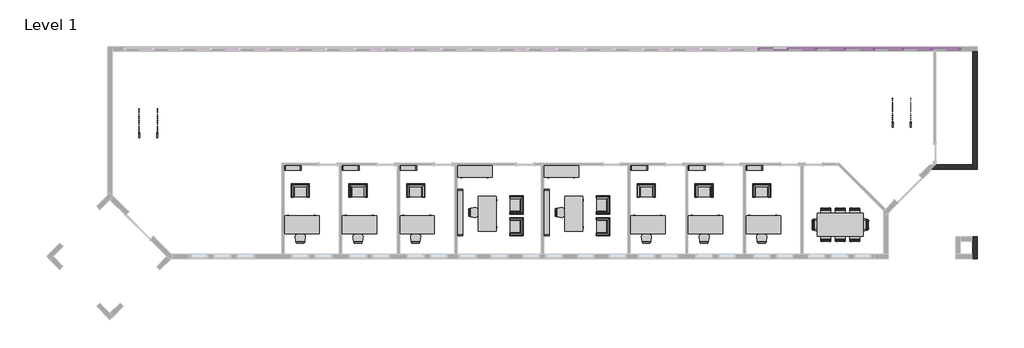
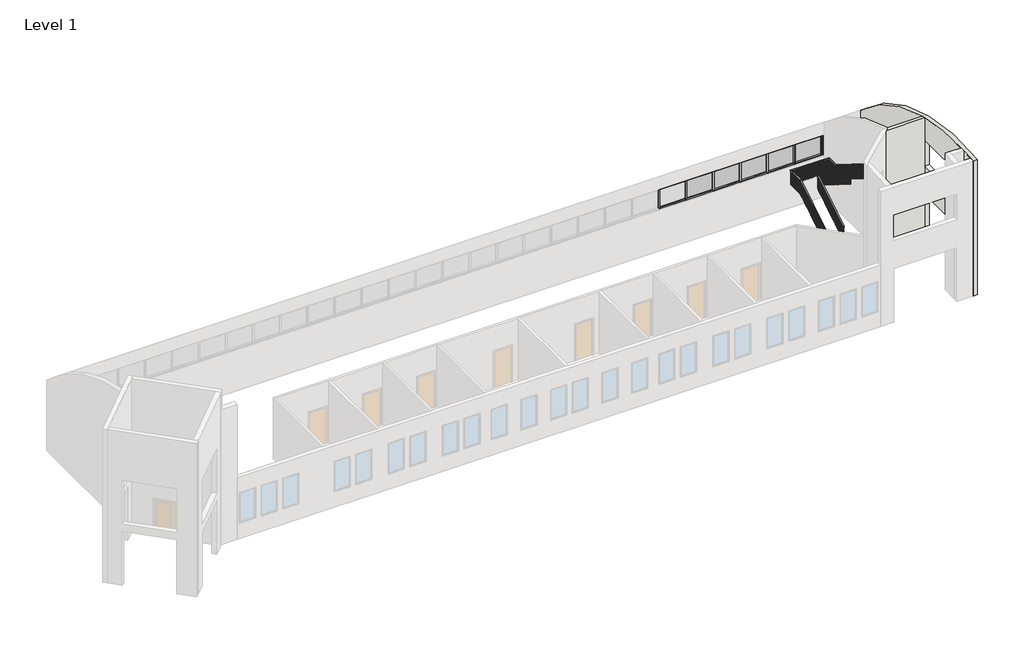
# One storey, part 4 of 4: 45 furniture elements, 22 members, 6 plates, 4 railings, 2 walls.
"""IFC4 building model written with IfcOpenShell, lengths in millimetres."""

from ifc_helpers import new_model, si_unit, frame, origin, place, context, project, spatial, circle_curve, ellipse_curve, transform, mapped, element, save
from ifc_brep_helpers import plane_surface, cylinder_surface, advanced_brep
from components import chair_corbu_chair_corbu_2764bdef, chair_desk_chair_desk_ccc35c8f, chair_task_chair_task_b7f3823b, chair_task_arms_chair_task_arms_3b363349, furniture_7b927048, furniture_2fc54265, furniture_417d203a, furniture_b1da5ad0, furniture_bf544a6a, member_26d67f61, member_4a1dde21, member_ea26f28a, member_39b5eb81, system_panel_glazed_acb3b149, system_panel_glazed_38e8219a, handrail_rectangular_c8b49949, handrail_rectangular_ed192b8c, handrail_rectangular_dc8e77f5, handrail_rectangular_92576db8

model = new_model("IFC4")

# Units and contexts
model_context = context("Model", 3, world=origin())
ifc_project = project(units=[si_unit("LENGTHUNIT", "METRE", prefix="MILLI")], contexts=[model_context])

# Site, building, storey
site = spatial("IfcSite", under=ifc_project)
building = spatial("IfcBuilding", under=site)
storey = spatial("IfcBuildingStorey", under=building, Name="Level 1", Elevation=0.0)

# Furniture
placement = place(None, origin())
chair_corbu_chair_corbu_shape = chair_corbu_chair_corbu_2764bdef(model_context)
element("IfcFurniture", 1, ObjectType="Chair-Corbu : Chair-Corbu", at=placement, inside=storey, context=model_context, shape_type="MappedRepresentation", body=[
    mapped(chair_corbu_chair_corbu_shape, transform((-2632.1841611, 561.520538, 0.0), x_axis=(1.0, 0.0, 0.0), y_axis=(0.0, 1.0, 0.0), z_axis=(0.0, 0.0, 1.0))),
])
element("IfcFurniture", 2, ObjectType="Chair-Corbu : Chair-Corbu", at=placement, inside=storey, context=model_context, shape_type="MappedRepresentation", body=[
    mapped(chair_corbu_chair_corbu_shape, transform((415.8158389, 561.520538, 0.0), x_axis=(1.0, 0.0, 0.0), y_axis=(0.0, 1.0, 0.0), z_axis=(0.0, 0.0, 1.0))),
])
element("IfcFurniture", 3, ObjectType="Chair-Corbu : Chair-Corbu", at=placement, inside=storey, context=model_context, shape_type="MappedRepresentation", body=[
    mapped(chair_corbu_chair_corbu_shape, transform((15655.8158389, 561.520538, 0.0), x_axis=(1.0, 0.0, 0.0), y_axis=(0.0, 1.0, 0.0), z_axis=(0.0, 0.0, 1.0))),
])
element("IfcFurniture", 4, ObjectType="Chair-Corbu : Chair-Corbu", at=placement, inside=storey, context=model_context, shape_type="MappedRepresentation", body=[
    mapped(chair_corbu_chair_corbu_shape, transform((18703.8158389, 561.520538, 0.0), x_axis=(1.0, 0.0, 0.0), y_axis=(0.0, 1.0, 0.0), z_axis=(0.0, 0.0, 1.0))),
])
element("IfcFurniture", 5, ObjectType="Chair-Corbu : Chair-Corbu", at=placement, inside=storey, context=model_context, shape_type="MappedRepresentation", body=[
    mapped(chair_corbu_chair_corbu_shape, transform((21751.8158389, 561.520538, 0.0), x_axis=(1.0, 0.0, 0.0), y_axis=(0.0, 1.0, 0.0), z_axis=(0.0, 0.0, 1.0))),
])
element("IfcFurniture", 6, ObjectType="Chair-Corbu : Chair-Corbu", at=placement, inside=storey, context=model_context, shape_type="MappedRepresentation", body=[
    mapped(chair_corbu_chair_corbu_shape, transform((8904.4125603, 839.6713577, 0.0), x_axis=(0.0, -1.0, 0.0), y_axis=(1.0, 0.0, 0.0), z_axis=(0.0, 0.0, 1.0))),
])
element("IfcFurniture", 7, ObjectType="Chair-Corbu : Chair-Corbu", at=placement, inside=storey, context=model_context, shape_type="MappedRepresentation", body=[
    mapped(chair_corbu_chair_corbu_shape, transform((8904.4125603, -303.3286423, 0.0), x_axis=(0.0, -1.0, 0.0), y_axis=(1.0, 0.0, 0.0), z_axis=(0.0, 0.0, 1.0))),
])
element("IfcFurniture", 8, ObjectType="Chair-Corbu : Chair-Corbu", at=placement, inside=storey, context=model_context, shape_type="MappedRepresentation", body=[
    mapped(chair_corbu_chair_corbu_shape, transform((3463.8158389, 561.520538, 0.0), x_axis=(1.0, 0.0, 0.0), y_axis=(0.0, 1.0, 0.0), z_axis=(0.0, 0.0, 1.0))),
])
element("IfcFurniture", 9, ObjectType="Chair-Corbu : Chair-Corbu", at=placement, inside=storey, context=model_context, shape_type="MappedRepresentation", body=[
    mapped(chair_corbu_chair_corbu_shape, transform((13476.4125603, 839.6713577, 0.0), x_axis=(0.0, -1.0, 0.0), y_axis=(1.0, 0.0, 0.0), z_axis=(0.0, 0.0, 1.0))),
])
element("IfcFurniture", 10, ObjectType="Chair-Corbu : Chair-Corbu", at=placement, inside=storey, context=model_context, shape_type="MappedRepresentation", body=[
    mapped(chair_corbu_chair_corbu_shape, transform((13476.4125603, -303.3286423, 0.0), x_axis=(0.0, -1.0, 0.0), y_axis=(1.0, 0.0, 0.0), z_axis=(0.0, 0.0, 1.0))),
])
chair_desk_chair_desk_shape = chair_desk_chair_desk_ccc35c8f(model_context)
element("IfcFurniture", 11, ObjectType="Chair-Desk : Chair-Desk", at=placement, inside=storey, context=model_context, shape_type="MappedRepresentation", body=[
    mapped(chair_desk_chair_desk_shape, transform((-2058.8103906, -1689.5024128, 0.0), x_axis=(1.0, 0.0, 0.0), y_axis=(0.0, 1.0, 0.0), z_axis=(0.0, 0.0, 1.0))),
])
element("IfcFurniture", 12, ObjectType="Chair-Desk : Chair-Desk", at=placement, inside=storey, context=model_context, shape_type="MappedRepresentation", body=[
    mapped(chair_desk_chair_desk_shape, transform((989.1896094, -1689.5024128, 0.0), x_axis=(1.0, 0.0, 0.0), y_axis=(0.0, 1.0, 0.0), z_axis=(0.0, 0.0, 1.0))),
])
element("IfcFurniture", 13, ObjectType="Chair-Desk : Chair-Desk", at=placement, inside=storey, context=model_context, shape_type="MappedRepresentation", body=[
    mapped(chair_desk_chair_desk_shape, transform((16229.1896094, -1689.5024128, 0.0), x_axis=(1.0, 0.0, 0.0), y_axis=(0.0, 1.0, 0.0), z_axis=(0.0, 0.0, 1.0))),
])
element("IfcFurniture", 14, ObjectType="Chair-Desk : Chair-Desk", at=placement, inside=storey, context=model_context, shape_type="MappedRepresentation", body=[
    mapped(chair_desk_chair_desk_shape, transform((19277.1896094, -1689.5024128, 0.0), x_axis=(1.0, 0.0, 0.0), y_axis=(0.0, 1.0, 0.0), z_axis=(0.0, 0.0, 1.0))),
])
element("IfcFurniture", 15, ObjectType="Chair-Desk : Chair-Desk", at=placement, inside=storey, context=model_context, shape_type="MappedRepresentation", body=[
    mapped(chair_desk_chair_desk_shape, transform((22325.1896094, -1689.5024128, 0.0), x_axis=(1.0, 0.0, 0.0), y_axis=(0.0, 1.0, 0.0), z_axis=(0.0, 0.0, 1.0))),
])
element("IfcFurniture", 16, ObjectType="Chair-Desk : Chair-Desk", at=placement, inside=storey, context=model_context, shape_type="MappedRepresentation", body=[
    mapped(chair_desk_chair_desk_shape, transform((6911.7586481, -128.9899128, 0.0), x_axis=(0.0, -1.0, 0.0), y_axis=(1.0, 0.0, 0.0), z_axis=(0.0, 0.0, 1.0))),
])
element("IfcFurniture", 17, ObjectType="Chair-Desk : Chair-Desk", at=placement, inside=storey, context=model_context, shape_type="MappedRepresentation", body=[
    mapped(chair_desk_chair_desk_shape, transform((4037.1896094, -1689.5024128, 0.0), x_axis=(1.0, 0.0, 0.0), y_axis=(0.0, 1.0, 0.0), z_axis=(0.0, 0.0, 1.0))),
])
element("IfcFurniture", 18, ObjectType="Chair-Desk : Chair-Desk", at=placement, inside=storey, context=model_context, shape_type="MappedRepresentation", body=[
    mapped(chair_desk_chair_desk_shape, transform((11483.7586481, -128.9899128, 0.0), x_axis=(0.0, -1.0, 0.0), y_axis=(1.0, 0.0, 0.0), z_axis=(0.0, 0.0, 1.0))),
])
chair_task_chair_task_shape = chair_task_chair_task_b7f3823b(model_context)
element("IfcFurniture", 19, ObjectType="Chair-Task : Chair-Task", at=placement, inside=storey, context=model_context, shape_type="MappedRepresentation", body=[
    mapped(chair_task_chair_task_shape, transform((25572.0033185, -1403.6483145, 0.0), x_axis=(1.0, 0.0, 0.0), y_axis=(0.0, 1.0, 0.0), z_axis=(0.0, 0.0, 1.0))),
])
element("IfcFurniture", 20, ObjectType="Chair-Task : Chair-Task", at=placement, inside=storey, context=model_context, shape_type="MappedRepresentation", body=[
    mapped(chair_task_chair_task_shape, transform((25853.9849578, -146.5565112, 0.0), x_axis=(-1.0, 0.0, 0.0), y_axis=(0.0, -1.0, 0.0), z_axis=(0.0, 0.0, 1.0))),
])
element("IfcFurniture", 21, ObjectType="Chair-Task : Chair-Task", at=placement, inside=storey, context=model_context, shape_type="MappedRepresentation", body=[
    mapped(chair_task_chair_task_shape, transform((27096.0033185, -1403.6483145, 0.0), x_axis=(1.0, 0.0, 0.0), y_axis=(0.0, 1.0, 0.0), z_axis=(0.0, 0.0, 1.0))),
])
element("IfcFurniture", 22, ObjectType="Chair-Task : Chair-Task", at=placement, inside=storey, context=model_context, shape_type="MappedRepresentation", body=[
    mapped(chair_task_chair_task_shape, transform((26334.0033185, -1403.6483145, 0.0), x_axis=(1.0, 0.0, 0.0), y_axis=(0.0, 1.0, 0.0), z_axis=(0.0, 0.0, 1.0))),
])
element("IfcFurniture", 23, ObjectType="Chair-Task : Chair-Task", at=placement, inside=storey, context=model_context, shape_type="MappedRepresentation", body=[
    mapped(chair_task_chair_task_shape, transform((27377.9849578, -146.5565112, 0.0), x_axis=(-1.0, 0.0, 0.0), y_axis=(0.0, -1.0, 0.0), z_axis=(0.0, 0.0, 1.0))),
])
element("IfcFurniture", 24, ObjectType="Chair-Task : Chair-Task", at=placement, inside=storey, context=model_context, shape_type="MappedRepresentation", body=[
    mapped(chair_task_chair_task_shape, transform((26615.9849578, -146.5565112, 0.0), x_axis=(-1.0, 0.0, 0.0), y_axis=(0.0, -1.0, 0.0), z_axis=(0.0, 0.0, 1.0))),
])
chair_task_arms_chair_task_arms_shape = chair_task_arms_chair_task_arms_3b363349(model_context)
element("IfcFurniture", 25, ObjectType="Chair-Task Arms : Chair-Task Arms", at=placement, inside=storey, context=model_context, shape_type="MappedRepresentation", body=[
    mapped(chair_task_arms_chair_task_arms_shape, transform((25236.8482365, -634.1115932, 0.0), x_axis=(0.0, -1.0, 0.0), y_axis=(1.0, 0.0, 0.0), z_axis=(0.0, 0.0, 1.0))),
])
element("IfcFurniture", 26, ObjectType="Chair-Task Arms : Chair-Task Arms", at=placement, inside=storey, context=model_context, shape_type="MappedRepresentation", body=[
    mapped(chair_task_arms_chair_task_arms_shape, transform((27713.1400398, -916.0932325, 0.0), x_axis=(0.0, 1.0000000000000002, 0.0), y_axis=(-1.0000000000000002, 0.0, 0.0), z_axis=(0.0, 0.0, 1.0))),
])
furniture_shape = furniture_7b927048(model_context)
element("IfcFurniture", 27, ObjectType="Credenza : 72\" x 24\"", at=placement, inside=storey, context=model_context, shape_type="MappedRepresentation", body=[
    mapped(furniture_shape, transform((7087.5578471, 2054.0047593, 0.0), x_axis=(1.0, 0.0, 0.0), y_axis=(0.0, 1.0, 0.0), z_axis=(0.0, 0.0, 1.0))),
])
element("IfcFurniture", 28, ObjectType="Credenza : 72\" x 24\"", at=placement, inside=storey, context=model_context, shape_type="MappedRepresentation", body=[
    mapped(furniture_shape, transform((11659.5578471, 2054.0047593, 0.0), x_axis=(1.0, 0.0, 0.0), y_axis=(0.0, 1.0, 0.0), z_axis=(0.0, 0.0, 1.0))),
])
furniture_2_shape = furniture_2fc54265(model_context)
element("IfcFurniture", 29, ObjectType="Desk : 72\" x 36\"", at=placement, inside=storey, context=model_context, shape_type="MappedRepresentation", body=[
    mapped(furniture_2_shape, transform((-2911.2978906, -1232.3024128, 0.0), x_axis=(1.0, 0.0, 0.0), y_axis=(0.0, 1.0, 0.0), z_axis=(0.0, 0.0, 1.0))),
])
element("IfcFurniture", 30, ObjectType="Desk : 72\" x 36\"", at=placement, inside=storey, context=model_context, shape_type="MappedRepresentation", body=[
    mapped(furniture_2_shape, transform((136.7021094, -1232.3024128, 0.0), x_axis=(1.0, 0.0, 0.0), y_axis=(0.0, 1.0, 0.0), z_axis=(0.0, 0.0, 1.0))),
])
element("IfcFurniture", 31, ObjectType="Desk : 72\" x 36\"", at=placement, inside=storey, context=model_context, shape_type="MappedRepresentation", body=[
    mapped(furniture_2_shape, transform((15376.7021094, -1232.3024128, 0.0), x_axis=(1.0, 0.0, 0.0), y_axis=(0.0, 1.0, 0.0), z_axis=(0.0, 0.0, 1.0))),
])
element("IfcFurniture", 32, ObjectType="Desk : 72\" x 36\"", at=placement, inside=storey, context=model_context, shape_type="MappedRepresentation", body=[
    mapped(furniture_2_shape, transform((18424.7021094, -1232.3024128, 0.0), x_axis=(1.0, 0.0, 0.0), y_axis=(0.0, 1.0, 0.0), z_axis=(0.0, 0.0, 1.0))),
])
element("IfcFurniture", 33, ObjectType="Desk : 72\" x 36\"", at=placement, inside=storey, context=model_context, shape_type="MappedRepresentation", body=[
    mapped(furniture_2_shape, transform((21472.7021094, -1232.3024128, 0.0), x_axis=(1.0, 0.0, 0.0), y_axis=(0.0, 1.0, 0.0), z_axis=(0.0, 0.0, 1.0))),
])
element("IfcFurniture", 34, ObjectType="Desk : 72\" x 36\"", at=placement, inside=storey, context=model_context, shape_type="MappedRepresentation", body=[
    mapped(furniture_2_shape, transform((7368.9586481, 723.4975872, 0.0), x_axis=(0.0, -1.0, 0.0), y_axis=(1.0, 0.0, 0.0), z_axis=(0.0, 0.0, 1.0))),
])
element("IfcFurniture", 35, ObjectType="Desk : 72\" x 36\"", at=placement, inside=storey, context=model_context, shape_type="MappedRepresentation", body=[
    mapped(furniture_2_shape, transform((3184.7021094, -1232.3024128, 0.0), x_axis=(1.0, 0.0, 0.0), y_axis=(0.0, 1.0, 0.0), z_axis=(0.0, 0.0, 1.0))),
])
element("IfcFurniture", 36, ObjectType="Desk : 72\" x 36\"", at=placement, inside=storey, context=model_context, shape_type="MappedRepresentation", body=[
    mapped(furniture_2_shape, transform((11940.9586481, 723.4975872, 0.0), x_axis=(0.0, -1.0, 0.0), y_axis=(1.0, 0.0, 0.0), z_axis=(0.0, 0.0, 1.0))),
])
furniture_3_shape = furniture_417d203a(model_context)
element("IfcFurniture", 37, ObjectType="Shelving : 36\" x 10\" x 72\"", at=placement, inside=storey, context=model_context, shape_type="MappedRepresentation", body=[
    mapped(furniture_3_shape, transform((-2454.0978906, 2541.1850872, 0.0), x_axis=(1.0, 0.0, 0.0), y_axis=(0.0, 1.0, 0.0), z_axis=(0.0, 0.0, 1.0))),
])
element("IfcFurniture", 38, ObjectType="Shelving : 36\" x 10\" x 72\"", at=placement, inside=storey, context=model_context, shape_type="MappedRepresentation", body=[
    mapped(furniture_3_shape, transform((593.9021094, 2541.1850872, 0.0), x_axis=(1.0, 0.0, 0.0), y_axis=(0.0, 1.0, 0.0), z_axis=(0.0, 0.0, 1.0))),
])
element("IfcFurniture", 39, ObjectType="Shelving : 36\" x 10\" x 72\"", at=placement, inside=storey, context=model_context, shape_type="MappedRepresentation", body=[
    mapped(furniture_3_shape, transform((15833.9021094, 2541.1850872, 0.0), x_axis=(1.0, 0.0, 0.0), y_axis=(0.0, 1.0, 0.0), z_axis=(0.0, 0.0, 1.0))),
])
element("IfcFurniture", 40, ObjectType="Shelving : 36\" x 10\" x 72\"", at=placement, inside=storey, context=model_context, shape_type="MappedRepresentation", body=[
    mapped(furniture_3_shape, transform((18881.9021094, 2541.1850872, 0.0), x_axis=(1.0, 0.0, 0.0), y_axis=(0.0, 1.0, 0.0), z_axis=(0.0, 0.0, 1.0))),
])
element("IfcFurniture", 41, ObjectType="Shelving : 36\" x 10\" x 72\"", at=placement, inside=storey, context=model_context, shape_type="MappedRepresentation", body=[
    mapped(furniture_3_shape, transform((21929.9021094, 2541.1850872, 0.0), x_axis=(1.0, 0.0, 0.0), y_axis=(0.0, 1.0, 0.0), z_axis=(0.0, 0.0, 1.0))),
])
element("IfcFurniture", 42, ObjectType="Shelving : 36\" x 10\" x 72\"", at=placement, inside=storey, context=model_context, shape_type="MappedRepresentation", body=[
    mapped(furniture_3_shape, transform((3641.9021094, 2541.1850872, 0.0), x_axis=(1.0, 0.0, 0.0), y_axis=(0.0, 1.0, 0.0), z_axis=(0.0, 0.0, 1.0))),
])
furniture_4_shape = furniture_b1da5ad0(model_context)
element("IfcFurniture", 43, ObjectType="Shelving : 96\" x 12\" x 84\"", at=placement, inside=storey, context=model_context, shape_type="MappedRepresentation", body=[
    mapped(furniture_4_shape, transform((6080.3021094, -128.9899128, 0.0), x_axis=(0.0, 1.0, 0.0), y_axis=(-1.0, 0.0, 0.0), z_axis=(0.0, 0.0, 1.0))),
])
element("IfcFurniture", 44, ObjectType="Shelving : 96\" x 12\" x 84\"", at=placement, inside=storey, context=model_context, shape_type="MappedRepresentation", body=[
    mapped(furniture_4_shape, transform((10652.3021094, -128.9899128, 0.0), x_axis=(0.0, 1.0, 0.0), y_axis=(-1.0, 0.0, 0.0), z_axis=(0.0, 0.0, 1.0))),
])
furniture_5_shape = furniture_bf544a6a(model_context)
element("IfcFurniture", 45, ObjectType="Table-Conference with Chairs : 48\" x 96\"", at=placement, inside=storey, context=model_context, shape_type="MappedRepresentation", body=[
    mapped(furniture_5_shape, transform((26474.9941381, -775.1024128, 0.0), x_axis=(1.0, 0.0, 0.0), y_axis=(0.0, 1.0, 0.0), z_axis=(0.0, 0.0, 1.0))),
])

# Members
member_shape = member_26d67f61(model_context)
element("IfcMember", 46, ObjectType="Rectangular Mullion : 2.5\" x 5\" rectangular", at=placement, inside=storey, context=model_context, shape_type="MappedRepresentation", body=[
    mapped(member_shape, transform((32777.2896094, 8521.2975872, 3657.6), x_axis=(0.0, 0.0, 1.0), y_axis=(0.0, -1.0, 0.0), z_axis=(1.0, 0.0, 0.0))),
])
member_2_shape = member_4a1dde21(model_context)
element("IfcMember", 47, ObjectType="Rectangular Mullion : 2.5\" x 5\" rectangular", at=placement, inside=storey, context=model_context, shape_type="MappedRepresentation", body=[
    mapped(member_2_shape, transform((23665.0396094, 8521.2975872, 3657.6), x_axis=(0.0, 0.0, 1.0), y_axis=(0.0, -1.0, 0.0), z_axis=(1.0, 0.0, 0.0))),
])
element("IfcMember", 48, ObjectType="Rectangular Mullion : 2.5\" x 5\" rectangular", at=placement, inside=storey, context=model_context, shape_type="MappedRepresentation", body=[
    mapped(member_2_shape, transform((25189.0396094, 8521.2975872, 3657.6), x_axis=(0.0, 0.0, 1.0), y_axis=(0.0, -1.0, 0.0), z_axis=(1.0, 0.0, 0.0))),
])
element("IfcMember", 49, ObjectType="Rectangular Mullion : 2.5\" x 5\" rectangular", at=placement, inside=storey, context=model_context, shape_type="MappedRepresentation", body=[
    mapped(member_2_shape, transform((26713.0396094, 8521.2975872, 3657.6), x_axis=(0.0, 0.0, 1.0), y_axis=(0.0, -1.0, 0.0), z_axis=(1.0, 0.0, 0.0))),
])
element("IfcMember", 50, ObjectType="Rectangular Mullion : 2.5\" x 5\" rectangular", at=placement, inside=storey, context=model_context, shape_type="MappedRepresentation", body=[
    mapped(member_2_shape, transform((28237.0396094, 8521.2975872, 3657.6), x_axis=(0.0, 0.0, 1.0), y_axis=(0.0, -1.0, 0.0), z_axis=(1.0, 0.0, 0.0))),
])
element("IfcMember", 51, ObjectType="Rectangular Mullion : 2.5\" x 5\" rectangular", at=placement, inside=storey, context=model_context, shape_type="MappedRepresentation", body=[
    mapped(member_2_shape, transform((29761.0396094, 8521.2975872, 3657.6), x_axis=(0.0, 0.0, 1.0), y_axis=(0.0, -1.0, 0.0), z_axis=(1.0, 0.0, 0.0))),
])
element("IfcMember", 52, ObjectType="Rectangular Mullion : 2.5\" x 5\" rectangular", at=placement, inside=storey, context=model_context, shape_type="MappedRepresentation", body=[
    mapped(member_2_shape, transform((31285.0396094, 8521.2975872, 3657.6), x_axis=(0.0, 0.0, 1.0), y_axis=(0.0, -1.0, 0.0), z_axis=(1.0, 0.0, 0.0))),
])
element("IfcMember", 53, ObjectType="Rectangular Mullion : 2.5\" x 5\" rectangular", at=placement, inside=storey, context=model_context, shape_type="MappedRepresentation", body=[
    mapped(member_shape, transform((31348.5396094, 8521.2975872, 2451.0234381), x_axis=(0.0, 0.0, -1.0), y_axis=(0.0, -1.0, 0.0), z_axis=(-1.0, 0.0, 0.0))),
])
element("IfcMember", 54, ObjectType="Rectangular Mullion : 2.5\" x 5\" rectangular", at=placement, inside=storey, context=model_context, shape_type="MappedRepresentation", body=[
    mapped(member_2_shape, transform((22204.5396094, 8521.2975872, 2451.0234381), x_axis=(0.0, 0.0, -1.0), y_axis=(0.0, -1.0, 0.0), z_axis=(-1.0, 0.0, 0.0))),
])
element("IfcMember", 55, ObjectType="Rectangular Mullion : 2.5\" x 5\" rectangular", at=placement, inside=storey, context=model_context, shape_type="MappedRepresentation", body=[
    mapped(member_2_shape, transform((23728.5396094, 8521.2975872, 2451.0234381), x_axis=(0.0, 0.0, -1.0), y_axis=(0.0, -1.0, 0.0), z_axis=(-1.0, 0.0, 0.0))),
])
element("IfcMember", 56, ObjectType="Rectangular Mullion : 2.5\" x 5\" rectangular", at=placement, inside=storey, context=model_context, shape_type="MappedRepresentation", body=[
    mapped(member_2_shape, transform((25252.5396094, 8521.2975872, 2451.0234381), x_axis=(0.0, 0.0, -1.0), y_axis=(0.0, -1.0, 0.0), z_axis=(-1.0, 0.0, 0.0))),
])
element("IfcMember", 57, ObjectType="Rectangular Mullion : 2.5\" x 5\" rectangular", at=placement, inside=storey, context=model_context, shape_type="MappedRepresentation", body=[
    mapped(member_2_shape, transform((26776.5396094, 8521.2975872, 2451.0234381), x_axis=(0.0, 0.0, -1.0), y_axis=(0.0, -1.0, 0.0), z_axis=(-1.0, 0.0, 0.0))),
])
element("IfcMember", 58, ObjectType="Rectangular Mullion : 2.5\" x 5\" rectangular", at=placement, inside=storey, context=model_context, shape_type="MappedRepresentation", body=[
    mapped(member_2_shape, transform((28300.5396094, 8521.2975872, 2451.0234381), x_axis=(0.0, 0.0, -1.0), y_axis=(0.0, -1.0, 0.0), z_axis=(-1.0, 0.0, 0.0))),
])
element("IfcMember", 59, ObjectType="Rectangular Mullion : 2.5\" x 5\" rectangular", at=placement, inside=storey, context=model_context, shape_type="MappedRepresentation", body=[
    mapped(member_2_shape, transform((29824.5396094, 8521.2975872, 2451.0234381), x_axis=(0.0, 0.0, -1.0), y_axis=(0.0, -1.0, 0.0), z_axis=(-1.0, 0.0, 0.0))),
])
member_3_shape = member_ea26f28a(model_context)
element("IfcMember", 60, ObjectType="Rectangular Mullion : 2.5\" x 5\" rectangular", at=placement, inside=storey, context=model_context, shape_type="MappedRepresentation", body=[
    mapped(member_3_shape, transform((22172.7896094, 8521.2975872, 2451.0234381), x_axis=(1.0, 0.0, 0.0), y_axis=(0.0, -1.0, 0.0), z_axis=(0.0, 0.0, -1.0))),
])
element("IfcMember", 61, ObjectType="Rectangular Mullion : 2.5\" x 5\" rectangular", at=placement, inside=storey, context=model_context, shape_type="MappedRepresentation", body=[
    mapped(member_3_shape, transform((23696.7896094, 8521.2975872, 2451.0234381), x_axis=(1.0, 0.0, 0.0), y_axis=(0.0, -1.0, 0.0), z_axis=(0.0, 0.0, -1.0))),
])
element("IfcMember", 62, ObjectType="Rectangular Mullion : 2.5\" x 5\" rectangular", at=placement, inside=storey, context=model_context, shape_type="MappedRepresentation", body=[
    mapped(member_3_shape, transform((25220.7896094, 8521.2975872, 2451.0234381), x_axis=(1.0, 0.0, 0.0), y_axis=(0.0, -1.0, 0.0), z_axis=(0.0, 0.0, -1.0))),
])
element("IfcMember", 63, ObjectType="Rectangular Mullion : 2.5\" x 5\" rectangular", at=placement, inside=storey, context=model_context, shape_type="MappedRepresentation", body=[
    mapped(member_3_shape, transform((26744.7896094, 8521.2975872, 2451.0234381), x_axis=(1.0, 0.0, 0.0), y_axis=(0.0, -1.0, 0.0), z_axis=(0.0, 0.0, -1.0))),
])
element("IfcMember", 64, ObjectType="Rectangular Mullion : 2.5\" x 5\" rectangular", at=placement, inside=storey, context=model_context, shape_type="MappedRepresentation", body=[
    mapped(member_3_shape, transform((28268.7896094, 8521.2975872, 2451.0234381), x_axis=(1.0, 0.0, 0.0), y_axis=(0.0, -1.0, 0.0), z_axis=(0.0, 0.0, -1.0))),
])
element("IfcMember", 65, ObjectType="Rectangular Mullion : 2.5\" x 5\" rectangular", at=placement, inside=storey, context=model_context, shape_type="MappedRepresentation", body=[
    mapped(member_3_shape, transform((29792.7896094, 8521.2975872, 2451.0234381), x_axis=(1.0, 0.0, 0.0), y_axis=(0.0, -1.0, 0.0), z_axis=(0.0, 0.0, -1.0))),
])
element("IfcMember", 66, ObjectType="Rectangular Mullion : 2.5\" x 5\" rectangular", at=placement, inside=storey, context=model_context, shape_type="MappedRepresentation", body=[
    mapped(member_3_shape, transform((31316.7896094, 8521.2975872, 2451.0234381), x_axis=(1.0, 0.0, 0.0), y_axis=(0.0, -1.0, 0.0), z_axis=(0.0, 0.0, -1.0))),
])
member_4_shape = member_39b5eb81(model_context)
element("IfcMember", 67, ObjectType="Rectangular Mullion : 2.5\" x 5\" rectangular", at=placement, inside=storey, context=model_context, shape_type="MappedRepresentation", body=[
    mapped(member_4_shape, transform((32840.7896094, 8521.2975872, 2451.0234381), x_axis=(1.0, 0.0, 0.0), y_axis=(0.0, -1.0, 0.0), z_axis=(0.0, 0.0, -1.0))),
])

# Plates
system_panel_glazed_shape = system_panel_glazed_acb3b149(model_context)
element("IfcPlate", 68, ObjectType="System Panel : Glazed", at=placement, inside=storey, context=model_context, shape_type="MappedRepresentation", body=[
    mapped(system_panel_glazed_shape, transform((32062.9146094, 8521.2975872, 2514.5234381), x_axis=(1.0, 0.0, 0.0), y_axis=(0.0, 1.0, 0.0), z_axis=(0.0, 0.0, 1.0))),
])
system_panel_glazed_2_shape = system_panel_glazed_38e8219a(model_context)
element("IfcPlate", 69, ObjectType="System Panel : Glazed", at=placement, inside=storey, context=model_context, shape_type="MappedRepresentation", body=[
    mapped(system_panel_glazed_2_shape, transform((24458.7896094, 8521.2975872, 2514.5234381), x_axis=(1.0, 0.0, 0.0), y_axis=(0.0, 1.0, 0.0), z_axis=(0.0, 0.0, 1.0))),
])
element("IfcPlate", 70, ObjectType="System Panel : Glazed", at=placement, inside=storey, context=model_context, shape_type="MappedRepresentation", body=[
    mapped(system_panel_glazed_2_shape, transform((25982.7896094, 8521.2975872, 2514.5234381), x_axis=(1.0, 0.0, 0.0), y_axis=(0.0, 1.0, 0.0), z_axis=(0.0, 0.0, 1.0))),
])
element("IfcPlate", 71, ObjectType="System Panel : Glazed", at=placement, inside=storey, context=model_context, shape_type="MappedRepresentation", body=[
    mapped(system_panel_glazed_2_shape, transform((27506.7896094, 8521.2975872, 2514.5234381), x_axis=(1.0, 0.0, 0.0), y_axis=(0.0, 1.0, 0.0), z_axis=(0.0, 0.0, 1.0))),
])
element("IfcPlate", 72, ObjectType="System Panel : Glazed", at=placement, inside=storey, context=model_context, shape_type="MappedRepresentation", body=[
    mapped(system_panel_glazed_2_shape, transform((29030.7896094, 8521.2975872, 2514.5234381), x_axis=(1.0, 0.0, 0.0), y_axis=(0.0, 1.0, 0.0), z_axis=(0.0, 0.0, 1.0))),
])
element("IfcPlate", 73, ObjectType="System Panel : Glazed", at=placement, inside=storey, context=model_context, shape_type="MappedRepresentation", body=[
    mapped(system_panel_glazed_2_shape, transform((30554.7896094, 8521.2975872, 2514.5234381), x_axis=(1.0, 0.0, 0.0), y_axis=(0.0, 1.0, 0.0), z_axis=(0.0, 0.0, 1.0))),
])

# Railings
handrail_rectangular_shape = handrail_rectangular_c8b49949(model_context)
element("IfcRailing", 74, ObjectType="Handrail - Rectangular", at=placement, inside=storey, context=model_context, shape_type="MappedRepresentation", body=[
    mapped(handrail_rectangular_shape, transform((0.0, 0.0, 0.0), x_axis=(1.0, 0.0, 0.0), y_axis=(0.0, 1.0, 0.0), z_axis=(0.0, 0.0, 1.0))),
])
handrail_rectangular_2_shape = handrail_rectangular_ed192b8c(model_context)
element("IfcRailing", 75, ObjectType="Handrail - Rectangular", at=placement, inside=storey, context=model_context, shape_type="MappedRepresentation", body=[
    mapped(handrail_rectangular_2_shape, transform((0.0, 0.0, 0.0), x_axis=(1.0, 0.0, 0.0), y_axis=(0.0, 1.0, 0.0), z_axis=(0.0, 0.0, 1.0))),
])
handrail_rectangular_3_shape = handrail_rectangular_dc8e77f5(model_context)
element("IfcRailing", 76, ObjectType="Handrail - Rectangular", at=placement, inside=storey, context=model_context, shape_type="MappedRepresentation", body=[
    mapped(handrail_rectangular_3_shape, transform((0.0, 0.0, 0.0), x_axis=(1.0, 0.0, 0.0), y_axis=(0.0, 1.0, 0.0), z_axis=(0.0, 0.0, 1.0))),
])
handrail_rectangular_4_shape = handrail_rectangular_92576db8(model_context)
element("IfcRailing", 77, ObjectType="Handrail - Rectangular", at=placement, inside=storey, context=model_context, shape_type="MappedRepresentation", body=[
    mapped(handrail_rectangular_4_shape, transform((0.0, 0.0, 0.0), x_axis=(1.0, 0.0, 0.0), y_axis=(0.0, 1.0, 0.0), z_axis=(0.0, 0.0, 1.0))),
])

# Walls
element("IfcWall", 78, ObjectType="Exterior - EIFS on Mtl. Stud", at=placement, inside=storey, context=model_context, shape_type="AdvancedBrep", body=[
    advanced_brep(
    [(33482.1396094, 8400.6475872, 0.0), (33482.1396094, 2390.3725872, 0.0), (33482.1396094, 2149.0725872, 0.0), (33482.1396094, 2149.0725872, 3200.4), (33482.1396094, -1416.4524128, 3200.4), (33482.1396094, -1416.4524128, 0.0), (33482.1396094, -1657.7524128, 0.0), (33482.1396094, -2330.8524128, 0.0), (33482.1396094, -2572.1524128, 0.0), (33482.1396094, -2572.1524128, 8041.8474028), (33482.1396094, -2330.8319722, 8066.5112147), (33482.1396094, -1657.7479006, 8112.8804154), (33482.1396094, -1416.4568226, 8121.5113003), (33482.1396094, 2149.0667445, 7754.672946), (33482.1396094, 2390.3710346, 7695.3513254), (33482.1396094, 8400.6475872, 4416.6203861), (33482.1396094, 2149.0725872, 4876.8), (33482.1396094, 2149.0725872, 6400.8), (33482.1396094, -1416.4524128, 6400.8), (33482.1396094, -1416.4524128, 4876.8), (33723.4396094, 8400.6475872, 0.0), (33723.4396094, 8400.6475872, 4416.6203861), (33723.4396094, -2572.1524128, 8041.8474028), (33723.4396094, -2572.1524128, 0.0), (33723.4396094, -1416.4524128, 0.0), (33723.4396094, -1416.4524128, 3200.4), (33723.4396094, 2149.0725872, 3200.4), (33723.4396094, 2149.0725872, 0.0), (33723.4396094, 2149.0725872, 4876.8), (33723.4396094, -1416.4524128, 4876.8), (33723.4396094, -1416.4524128, 6400.8), (33723.4396094, 2149.0725872, 6400.8)],
    [
        (0, 1),
        (1, 2),
        (2, 3),
        (3, 4),
        (4, 5),
        (5, 6),
        (6, 7),
        (7, 8),
        (8, 9),
        (9, 10, circle_curve(frame((33482.1396094, -1041.3166946, -5743.4275557), z_axis=(-1.0, 0.0, 0.0), x_axis=(0.0, -1.0, 0.0)), 13870.0131102)),
        (10, 11, circle_curve(frame((33482.1396094, -1041.3166946, -5743.4275557), z_axis=(-1.0, 0.0, 0.0), x_axis=(0.0, -1.0, 0.0)), 13870.0129234)),
        (11, 12, circle_curve(frame((33482.1396094, -1041.3166946, -5743.4275557), z_axis=(-1.0, 0.0, 0.0), x_axis=(0.0, -1.0, 0.0)), 13870.0129063)),
        (12, 13, circle_curve(frame((33482.1396094, -1041.3166946, -5743.4275557), z_axis=(-1.0, 0.0, 0.0), x_axis=(0.0, -1.0, 0.0)), 13870.0129631)),
        (13, 14, circle_curve(frame((33482.1396094, -1041.3166946, -5743.4275557), z_axis=(-1.0, 0.0, 0.0), x_axis=(0.0, -1.0, 0.0)), 13870.013109)),
        (14, 15, circle_curve(frame((33482.1396094, -1041.3166946, -5743.4275557), z_axis=(-1.0, 0.0, 0.0), x_axis=(0.0, -1.0, 0.0)), 13870.0129231)),
        (15, 0),
        (16, 17),
        (17, 18),
        (18, 19),
        (19, 16),
        (20, 21),
        (21, 22, circle_curve(frame((33723.4396094, -1041.3166946, -5743.4275557), z_axis=(1.0, 0.0, 0.0), x_axis=(0.0, -1.0, 0.0)), 13870.0131102)),
        (22, 23),
        (23, 24),
        (24, 25),
        (25, 26),
        (26, 27),
        (27, 20),
        (28, 29),
        (29, 30),
        (30, 31),
        (31, 28),
        (0, 20),
        (27, 2),
        (3, 26),
        (25, 4),
        (5, 24),
        (23, 8),
        (17, 31),
        (30, 18),
        (19, 29),
        (28, 16),
        (22, 9),
        (15, 21),
    ],
    [
        plane_surface(frame((33482.1396094, 6692.4975872, 0.0), z_axis=(-1.0, 0.0, 0.0), x_axis=(0.0, -1.0, 0.0))),
        plane_surface(frame((33723.4396094, 6692.4975872, 0.0), z_axis=(1.0, 0.0, 0.0), x_axis=(0.0, 1.0, 0.0))),
        plane_surface(frame((33482.1396094, 8521.2975872, 0.0), z_axis=(0.0, 0.0, -1.0), x_axis=(1.0, 0.0, 0.0))),
        plane_surface(frame((33482.1396094, 2269.7225872, 3200.4), z_axis=(0.0, 0.0, -1.0), x_axis=(1.0, 0.0, 0.0))),
        plane_surface(frame((33482.1396094, -1537.1024128, 0.0), z_axis=(0.0, 0.0, -1.0), x_axis=(1.0, 0.0, 0.0))),
        plane_surface(frame((33482.1396094, 2269.7225872, 6400.8), z_axis=(0.0, 0.0, -1.0), x_axis=(1.0, 0.0, 0.0))),
        plane_surface(frame((33482.1396094, -1537.1024128, 4876.8), z_axis=(0.0, 0.0, 1.0), x_axis=(1.0, 0.0, 0.0))),
        plane_surface(frame((12266.7896094, -2572.1524128, 0.0), z_axis=(0.0, -1.0, 0.0), x_axis=(1.0, 0.0, 0.0))),
        plane_surface(frame((-6021.2103906, 8400.6475872, 0.0), z_axis=(0.0, 1.0, 0.0), x_axis=(1.0, 0.0, 0.0))),
        plane_surface(frame((32383.5896094, -1416.4524128, 0.0), z_axis=(0.0, 1.0, 0.0), x_axis=(-1.0, 0.0, 0.0))),
        plane_surface(frame((33602.7896094, 2149.0725872, 0.0), z_axis=(0.0, -1.0, 0.0), x_axis=(1.0, 0.0, 0.0))),
        cylinder_surface(frame((34821.9896094, -1041.3166946, -5743.4275557), z_axis=(1.0, 0.0, 0.0), x_axis=(0.0, -1.0, 0.0)), 13870.0131102),
    ],
    [
        (0, [[1, 2, 3, 4, 5, 6, 7, 8, 9, 10, 11, 12, 13, 14, 15, 16], [17, 18, 19, 20]]),
        (1, [[21, 22, 23, 24, 25, 26, 27, 28], [29, 30, 31, 32]]),
        (2, [[-2, -1, 33, -28, 34]]),
        (3, [[-4, 35, -26, 36]]),
        (4, [[-8, -7, -6, 37, -24, 38]]),
        (5, [[-18, 39, -31, 40]]),
        (6, [[-20, 41, -29, 42]]),
        (7, [[-9, -38, -23, 43]]),
        (8, [[-16, 44, -21, -33]]),
        (9, [[-5, -36, -25, -37]]),
        (9, [[-19, -40, -30, -41]]),
        (10, [[-3, -34, -27, -35]]),
        (10, [[-17, -42, -32, -39]]),
        (11, [[-15, -14, -13, -12, -11, -10, -43, -22, -44]]),
    ],
),
])
element("IfcWall", 79, ObjectType="Exterior - EIFS on Mtl. Stud", at=placement, inside=storey, context=model_context, shape_type="AdvancedBrep", body=[
    advanced_brep(
    [(33482.1396094, 2390.3725872, 7695.3511221), (33482.1396094, 2390.3725872, 0.0), (31543.6040158, 2390.3725872, 0.0), (31543.6040158, 2390.3725872, 7695.3511221), (33482.1396094, 2149.0725872, 0.0), (33482.1396094, 2149.0725872, 3200.4), (33482.1396094, 2149.0725872, 4876.8), (33482.1396094, 2149.0725872, 6400.8), (33482.1396094, 2149.0725872, 7754.6715663), (31302.3040158, 2149.0725872, 7754.6715663), (31302.3040158, 2149.0725872, 0.0)],
    [
        (0, 1),
        (1, 2),
        (2, 3),
        (3, 0),
        (4, 5),
        (5, 6),
        (6, 7),
        (7, 8),
        (8, 9),
        (9, 10),
        (10, 4),
        (1, 4),
        (10, 2),
        (0, 8, circle_curve(frame((33482.1396094, -1041.3166946, -5743.4275557), z_axis=(1.0, 0.0, 0.0), x_axis=(0.0, -1.0, 0.0)), 13870.0131102)),
        (9, 3, ellipse_curve(frame((28111.9147341, -1041.3166946, -5743.4275557), z_axis=(-0.7071067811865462, 0.707106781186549, 0.0), x_axis=(0.7071067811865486, 0.7071067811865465, 0.0)), 19615.1606508, 13870.0131102)),
    ],
    [
        plane_surface(frame((33602.7896094, 2390.3725872, 0.0), z_axis=(0.0, 1.0, 0.0), x_axis=(-1.0, 0.0, 0.0))),
        plane_surface(frame((33602.7896094, 2149.0725872, 0.0), z_axis=(0.0, -1.0, 0.0), x_axis=(1.0, 0.0, 0.0))),
        plane_surface(frame((33602.7896094, 2390.3725872, 0.0), z_axis=(0.0, 0.0, -1.0), x_axis=(0.0, -1.0, 0.0))),
        plane_surface(frame((33482.1396094, 6692.4975872, 0.0), z_axis=(1.0, 0.0, 0.0), x_axis=(0.0, -1.0, 0.0))),
        plane_surface(frame((29049.7306208, -103.5008079, 0.0), z_axis=(-0.7071067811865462, 0.707106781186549, 0.0), x_axis=(0.707106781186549, 0.7071067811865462, 0.0))),
        cylinder_surface(frame((34821.9896094, -1041.3166946, -5743.4275557), z_axis=(1.0, 0.0, 0.0), x_axis=(0.0, -1.0, 0.0)), 13870.0131102),
    ],
    [
        (0, [[1, 2, 3, 4]]),
        (1, [[5, 6, 7, 8, 9, 10, 11]]),
        (2, [[-2, 12, -11, 13]]),
        (3, [[14, -8, -7, -6, -5, -12, -1]]),
        (4, [[-3, -13, -10, 15]]),
        (5, [[-4, -15, -9, -14]]),
    ],
),
])

save(model, "model.ifc")
